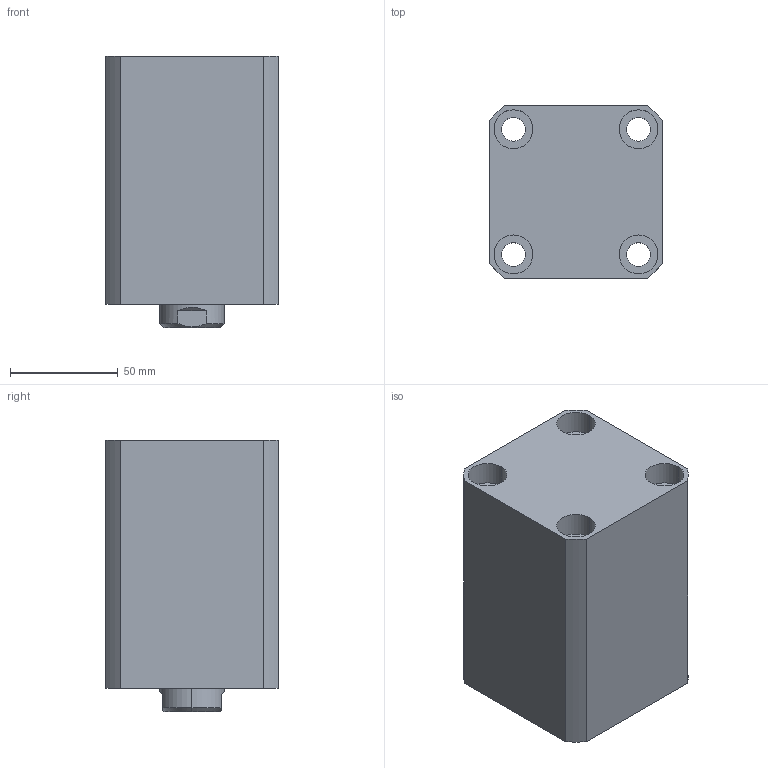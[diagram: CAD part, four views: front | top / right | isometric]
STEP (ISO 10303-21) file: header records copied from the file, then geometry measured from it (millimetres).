
FILE_DESCRIPTION (( 'STEP AP203' ), '1' );
FILE_NAME ('CHTB-SD50-55N.STEP', '2018-05-18T12:49:10', ( '' ), ( '' ), 'SwSTEP 2.0', 'SolidWorks 2015', '' );
FILE_SCHEMA (( 'CONFIG_CONTROL_DESIGN' ));
Length unit declared in the file: millimetre
Products named in the file (4): CHTM-SD50QG; 掛极SD50-55N; 活塞杆SD50-55N; CHTB-SD50-55N
Assembly tree (3 placements, depth 2):
  CHTB-SD50-55N
    掛极SD50-55N
    活塞杆SD50-55N
    CHTM-SD50QG
Bounding box: 80 x 80 x 126 mm (x, y, z)
Volume: 591258.6 mm3; surface area: 116512.8 mm2
Topology: 3 solids, 3 shells, 194 faces, 499 edges, 330 vertices
Faces by surface type: cylinder 104, plane 39, cone 21, torus 16, bspline 14
Entity records: 10789 total; most frequent: CARTESIAN_POINT 5840, ORIENTED_EDGE 986, DIRECTION 914, EDGE_CURVE 493, AXIS2_PLACEMENT_3D 383, VERTEX_POINT 330, EDGE_LOOP 233, CIRCLE 197
